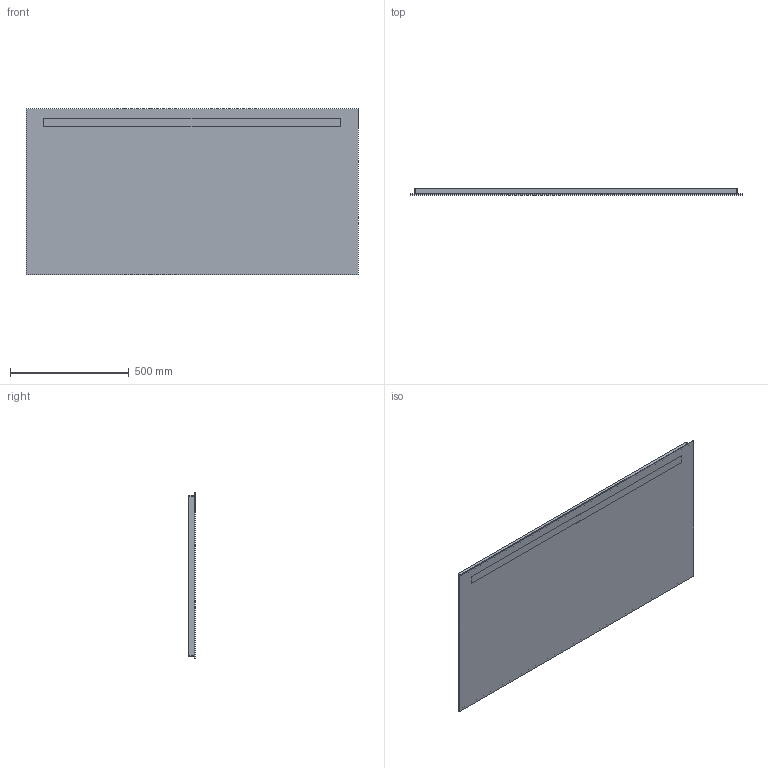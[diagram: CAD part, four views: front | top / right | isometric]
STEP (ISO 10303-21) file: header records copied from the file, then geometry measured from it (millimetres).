
FILE_DESCRIPTION(/* description */ (''),/* implementation_level */ '2;1');
FILE_NAME(/* name */ 'C:\Planerdaten\Export PLA\502.811.00.1\stp\502811.stp',/* time_stamp */ '2022-12-02T15:14:27+01:00',/* author */ ('JANAN'),/* organization */ (''),/* preprocessor_version */ 'ST-DEVELOPER v18.1',/* originating_system */ 'Autodesk Inventor 2021',/* authorisation */ '');
FILE_SCHEMA (('AUTOMOTIVE_DESIGN { 1 0 10303 214 3 1 1 }'));
Length unit declared in the file: millimetre
Products named in the file (1): tmp8A31.tmp
Bounding box: 1400 x 26 x 700 mm (x, y, z)
Volume: 24259044.4 mm3; surface area: 3917293.5 mm2
Topology: 2 solids, 2 shells, 29 faces, 68 edges, 48 vertices
Faces by surface type: plane 21, cylinder 8
Full cylindrical faces by diameter (mm): 8 x4
Entity records: 937 total; most frequent: DIRECTION 152, CARTESIAN_POINT 146, ORIENTED_EDGE 136, EDGE_CURVE 68, AXIS2_PLACEMENT_3D 54, VERTEX_POINT 48, LINE 44, VECTOR 44
